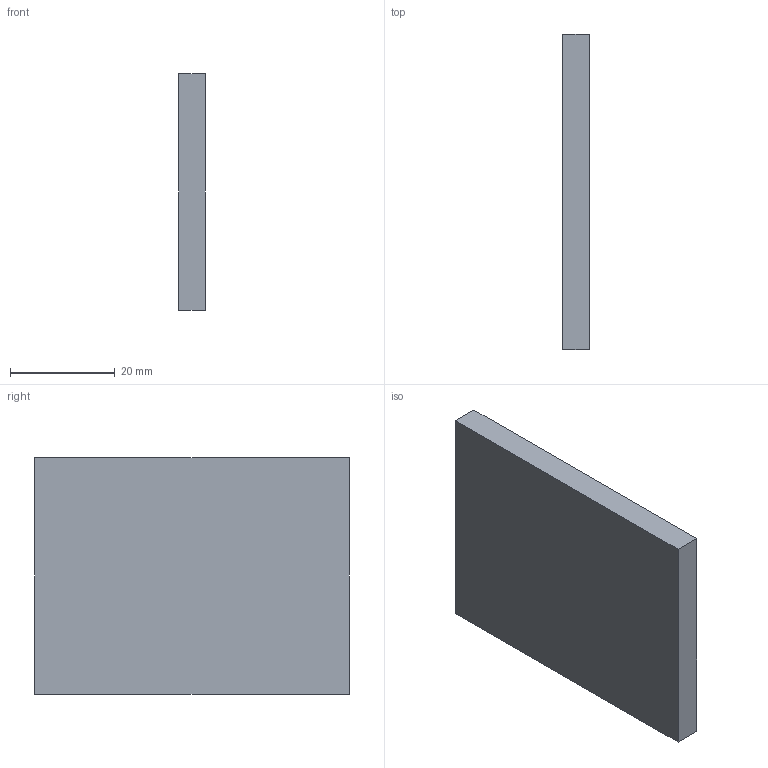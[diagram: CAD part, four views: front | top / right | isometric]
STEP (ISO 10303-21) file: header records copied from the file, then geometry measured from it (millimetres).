
FILE_DESCRIPTION(('Open CASCADE Model'),'2;1');
FILE_NAME('Open CASCADE Shape Model','2026-11-23T20:25:51',('Author'),( 'Open CASCADE'),'Open CASCADE STEP processor 7.9','Open CASCADE 7.9' ,'Unknown');
FILE_SCHEMA(('AUTOMOTIVE_DESIGN { 1 0 10303 214 1 1 1 1 }'));
Length unit declared in the file: millimetre
Products named in the file (1): Open CASCADE STEP translator 7.9 17
Bounding box: 5 x 60 x 45 mm (x, y, z)
Volume: 13500 mm3; surface area: 6450 mm2
Topology: 1 solids, 1 shells, 6 faces, 12 edges, 8 vertices
Faces by surface type: plane 6
Entity records: 322 total; most frequent: CARTESIAN_POINT 51, DIRECTION 50, LINE 36, VECTOR 36, ORIENTED_EDGE 24, PCURVE 24, DEFINITIONAL_REPRESENTATION 24, EDGE_CURVE 12
